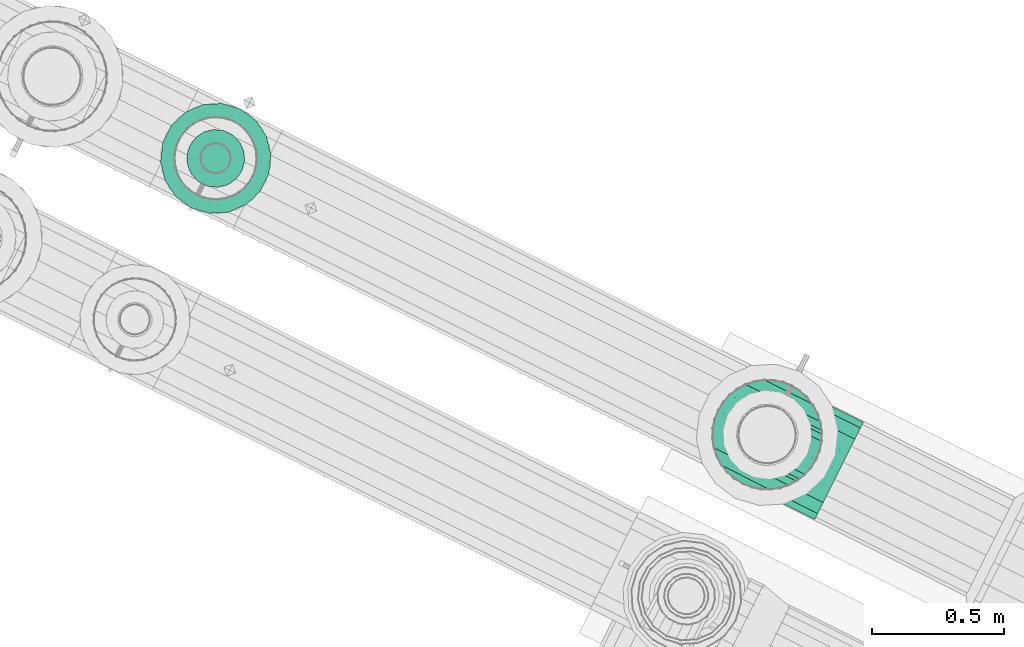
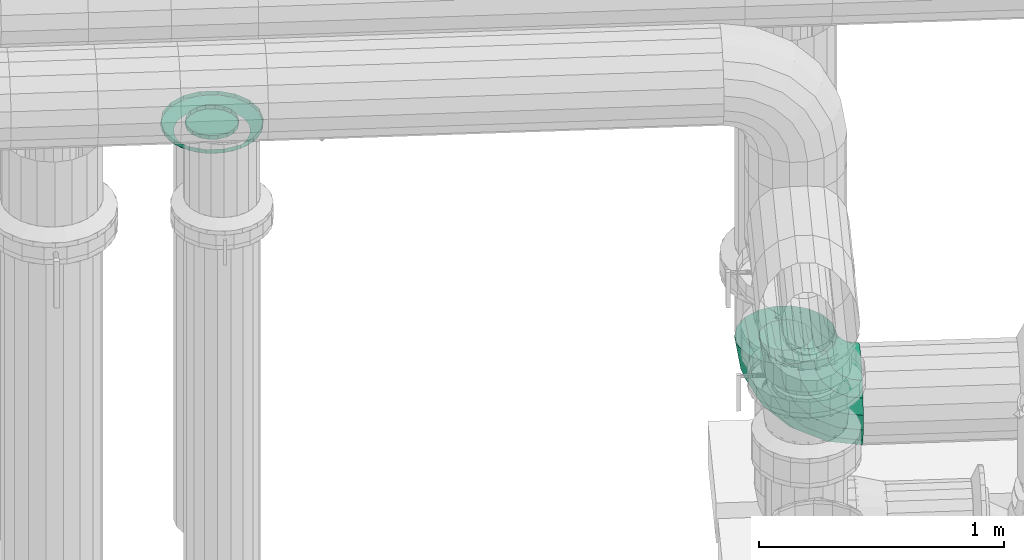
# One storey, part 127 of 152: 1 flow fitting, 1 flow segment.
"""IFC2X3 building model written with IfcOpenShell, lengths in metres."""

from ifc_helpers import new_model, si_unit, derived_unit, direction, frame, origin, place, context, subcontext, project, spatial, face_set, surface_model, source, transform, mapped, material, type_object, type_shapes, element, save


model = new_model("IFC2X3")

# Units and contexts
model_context = context("Model", 3, precision=5.2338327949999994e-05, world=origin(), true_north=direction((0.0, 1.0)))
body_context = subcontext(model_context, "Body", "Model", "MODEL_VIEW")
ifc_project = project(units=[si_unit("LENGTHUNIT", "METRE"), si_unit("AREAUNIT", "SQUARE_METRE"), si_unit("VOLUMEUNIT", "CUBIC_METRE"), si_unit("MASSUNIT", "GRAM", prefix="KILO"), si_unit("PLANEANGLEUNIT", "RADIAN"), derived_unit("THERMALTRANSMITTANCEUNIT", [(si_unit("MASSUNIT", "GRAM", prefix="KILO"), 1), (si_unit("THERMODYNAMICTEMPERATUREUNIT", "KELVIN"), -1), (si_unit("TIMEUNIT", "SECOND"), -3)])], contexts=[model_context])

# Site, building, storey
site_placement = place(None, frame((0.0, 0.0, 0.0), z_axis=(0.0, 0.0, 1.0), x_axis=(0.8939966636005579, -0.4480736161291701, 0.0)))
site = spatial("IfcSite", under=ifc_project, at=site_placement, Name="Default", CompositionType="ELEMENT")
building_placement = place(site_placement, origin())
building = spatial("IfcBuilding", under=site, at=building_placement, CompositionType="ELEMENT")
storey_placement = place(building_placement, frame((0.0, 0.0, 2.7499999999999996)))
storey = spatial("IfcBuildingStorey", under=building, at=storey_placement, Name="1. Obergeschoss", CompositionType="ELEMENT", Elevation=2.7499999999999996)

# Flow segment
ifc_material = material(Name="IfcSurfaceStyle #1741")
distribution_element_type_1 = type_object("IfcDistributionElementType", Name="Rohrbogen:Rohrbogen", material=ifc_material)
shared_shape_1 = source(origin(), body_context, "Body", "SurfaceModel", [
    surface_model("IfcFaceBasedSurfaceModel", [(9.516220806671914, 8.012208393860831, 3.764870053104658), (9.52282748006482, 8.04967670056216, 3.764870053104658), (9.542793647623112, 8.04967670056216, 3.6388086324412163), (9.536510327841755, 8.012208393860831, 3.636767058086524), (9.60073772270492, 8.04967670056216, 3.5250869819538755), (9.595392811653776, 8.012208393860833, 3.5212036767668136), (9.690987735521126, 8.04967670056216, 3.434836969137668), (9.687104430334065, 8.012208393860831, 3.429492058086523), (9.80470938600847, 8.049676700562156, 3.3768928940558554), (9.802667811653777, 8.012208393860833, 3.3706095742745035), (9.930770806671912, 8.04967670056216, 3.3569267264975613), (9.930770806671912, 8.012208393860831, 3.3503200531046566), (9.54185063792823, 8.082625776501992, 3.7648700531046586), (9.560885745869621, 8.082625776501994, 3.6446871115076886), (9.6161277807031, 8.082625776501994, 3.5362685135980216), (9.702169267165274, 8.082625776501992, 3.4502270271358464), (9.810587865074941, 8.082625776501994, 3.39498499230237), (9.930770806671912, 8.082625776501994, 3.3759498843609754), (9.570995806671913, 8.107081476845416, 3.764870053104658), (9.588604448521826, 8.10708147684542, 3.6536934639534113), (9.639706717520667, 8.10708147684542, 3.5533996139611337), (9.719300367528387, 8.107081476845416, 3.4738059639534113), (9.819594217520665, 8.107081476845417, 3.4227036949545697), (9.930770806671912, 8.10708147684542, 3.4050950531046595), (9.606747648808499, 8.12009408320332, 3.764870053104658), (9.62260647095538, 8.12009408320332, 3.6647413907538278), (9.668630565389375, 8.12009408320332, 3.574414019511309), (9.740314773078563, 8.12009408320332, 3.5027298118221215), (9.830642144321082, 8.120094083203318, 3.456705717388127), (9.930770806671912, 8.12009408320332, 3.4408468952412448), (9.644793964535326, 8.12009408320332, 3.764870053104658), (9.658790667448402, 8.12009408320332, 3.676498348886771), (9.699410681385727, 8.12009408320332, 3.5967770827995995), (9.762677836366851, 8.120094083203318, 3.5335099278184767), (9.842399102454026, 8.12009408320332, 3.4928899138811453), (9.930770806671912, 8.120094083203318, 3.478893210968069), (9.680545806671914, 8.107081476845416, 3.764870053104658), (9.692792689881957, 8.107081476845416, 3.687546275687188), (9.728334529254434, 8.107081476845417, 3.617791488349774), (9.783692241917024, 8.107081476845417, 3.562433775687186), (9.85344702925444, 8.107081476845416, 3.526891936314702), (9.930770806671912, 8.107081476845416, 3.514645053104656), (9.7096909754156, 8.082625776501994, 3.764870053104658), (9.72051139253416, 8.082625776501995, 3.6965526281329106), (9.751913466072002, 8.082625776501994, 3.634922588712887), (9.800823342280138, 8.082625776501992, 3.5860127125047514), (9.862453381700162, 8.082625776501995, 3.554610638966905), (9.930770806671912, 8.082625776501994, 3.543790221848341), (9.728714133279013, 8.049676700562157, 3.764870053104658), (9.73860349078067, 8.049676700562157, 3.702431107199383), (9.767303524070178, 8.04967670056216, 3.646104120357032), (9.812004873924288, 8.04967670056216, 3.60140277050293), (9.868331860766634, 8.04967670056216, 3.5727027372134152), (9.930770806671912, 8.049676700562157, 3.5628133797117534), (9.735320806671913, 8.012208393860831, 3.764870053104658), (9.744886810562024, 8.012208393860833, 3.7044726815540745), (9.772648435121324, 8.012208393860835, 3.6499874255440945), (9.815888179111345, 8.012208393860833, 3.6067476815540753), (9.870373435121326, 8.012208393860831, 3.578986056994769), (9.930770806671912, 8.012208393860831, 3.5694200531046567), (9.728714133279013, 7.974740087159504, 3.764870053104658), (9.73860349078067, 7.974740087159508, 3.702431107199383), (9.767303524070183, 7.974740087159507, 3.6461041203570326), (9.812004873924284, 7.974740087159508, 3.601402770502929), (9.868331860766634, 7.974740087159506, 3.5727027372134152), (9.930770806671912, 7.974740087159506, 3.5628133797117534), (9.7096909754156, 7.94179101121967, 3.7648700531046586), (9.72051139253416, 7.9417910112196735, 3.69655262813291), (9.751913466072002, 7.941791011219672, 3.634922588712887), (9.800823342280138, 7.941791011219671, 3.5860127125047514), (9.862453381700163, 7.9417910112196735, 3.5546106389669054), (9.930770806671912, 7.941791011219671, 3.5437902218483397), (9.680545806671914, 7.917335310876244, 3.764870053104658), (9.692792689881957, 7.917335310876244, 3.6875462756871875), (9.72833452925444, 7.917335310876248, 3.617791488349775), (9.783692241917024, 7.917335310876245, 3.5624337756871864), (9.85344702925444, 7.917335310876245, 3.5268919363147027), (9.930770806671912, 7.917335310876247, 3.514645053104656), (9.644793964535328, 7.904322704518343, 3.7648700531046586), (9.658790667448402, 7.904322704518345, 3.676498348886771), (9.699410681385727, 7.904322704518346, 3.5967770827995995), (9.762677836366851, 7.904322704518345, 3.5335099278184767), (9.842399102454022, 7.904322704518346, 3.4928899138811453), (9.930770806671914, 7.904322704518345, 3.478893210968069), (9.606747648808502, 7.904322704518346, 3.7648700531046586), (9.62260647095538, 7.904322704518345, 3.6647413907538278), (9.668630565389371, 7.904322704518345, 3.574414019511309), (9.740314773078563, 7.904322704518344, 3.5027298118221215), (9.830642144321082, 7.904322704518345, 3.456705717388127), (9.930770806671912, 7.904322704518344, 3.440846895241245), (9.570995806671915, 7.917335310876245, 3.7648700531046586), (9.588604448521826, 7.917335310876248, 3.653693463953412), (9.639706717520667, 7.917335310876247, 3.5533996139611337), (9.71930036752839, 7.917335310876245, 3.473805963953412), (9.819594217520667, 7.917335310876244, 3.422703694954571), (9.930770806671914, 7.917335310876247, 3.4050950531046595), (9.541850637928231, 7.941791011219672, 3.764870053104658), (9.560885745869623, 7.941791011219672, 3.644687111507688), (9.616127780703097, 7.941791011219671, 3.5362685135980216), (9.702169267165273, 7.941791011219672, 3.4502270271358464), (9.810587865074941, 7.9417910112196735, 3.394984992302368), (9.930770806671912, 7.941791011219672, 3.375949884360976), (9.52282748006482, 7.974740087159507, 3.764870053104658), (9.542793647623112, 7.974740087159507, 3.6388086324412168), (9.60073772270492, 7.974740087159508, 3.525086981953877), (9.690987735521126, 7.974740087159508, 3.4348369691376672), (9.80470938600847, 7.974740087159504, 3.3768928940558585), (9.930770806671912, 7.974740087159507, 3.3569267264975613), (9.416220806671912, 8.012208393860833, 3.764870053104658), (9.428858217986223, 8.083878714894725, 3.764870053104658), (9.45342356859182, 8.083878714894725, 3.609770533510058), (9.44140467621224, 8.012208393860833, 3.6058653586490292), (9.524714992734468, 8.083878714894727, 3.469853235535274), (9.51449111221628, 8.012208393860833, 3.4624251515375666), (9.635753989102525, 8.083878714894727, 3.358814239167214), (9.628325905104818, 8.012208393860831, 3.3485903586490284), (9.77567128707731, 8.083878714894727, 3.287522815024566), (9.77176611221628, 8.012208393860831, 3.275503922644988), (9.93077080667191, 8.083878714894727, 3.2629574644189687), (9.930770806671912, 8.012208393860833, 3.2503200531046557), (9.46524619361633, 8.146904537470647, 3.7648700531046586), (9.48803058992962, 8.146904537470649, 3.621015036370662), (9.554153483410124, 8.146904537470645, 3.4912415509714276), (9.65714230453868, 8.146904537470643, 3.3882527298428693), (9.786915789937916, 8.146904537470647, 3.322129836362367), (9.930770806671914, 8.146904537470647, 3.2993454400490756), (9.520995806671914, 8.193684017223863, 3.764870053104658), (9.541051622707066, 8.193684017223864, 3.6382426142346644), (9.599255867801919, 8.193684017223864, 3.5240103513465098), (9.689911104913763, 8.19368401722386, 3.433355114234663), (9.80414336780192, 8.193684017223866, 3.3751508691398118), (9.930770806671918, 8.193684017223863, 3.3550950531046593), (9.589382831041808, 8.218574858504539, 3.764870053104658), (9.606091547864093, 8.21857485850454, 3.659375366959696), (9.654582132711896, 8.218574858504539, 3.5642072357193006), (9.730107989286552, 8.218574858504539, 3.4886813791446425), (9.825276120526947, 8.21857485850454, 3.440190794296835), (9.930770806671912, 8.218574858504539, 3.423482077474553), (9.662158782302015, 8.218574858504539, 3.764870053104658), (9.675305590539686, 8.218574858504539, 3.681864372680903), (9.713459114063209, 8.218574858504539, 3.6069838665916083), (9.772884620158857, 8.21857485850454, 3.547558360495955), (9.847765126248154, 8.21857485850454, 3.509404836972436), (9.930770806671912, 8.21857485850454, 3.496258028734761), (9.73054580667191, 8.19368401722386, 3.764870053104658), (9.740345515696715, 8.193684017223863, 3.702997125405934), (9.768785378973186, 8.193684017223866, 3.6471807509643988), (9.81308150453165, 8.193684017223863, 3.602884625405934), (9.868897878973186, 8.193684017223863, 3.574444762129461), (9.930770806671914, 8.193684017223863, 3.564645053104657), (9.786295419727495, 8.146904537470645, 3.764870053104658), (9.793366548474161, 8.146904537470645, 3.720224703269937), (9.813887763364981, 8.146904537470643, 3.679949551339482), (9.845850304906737, 8.146904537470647, 3.647987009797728), (9.886125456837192, 8.146904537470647, 3.6274657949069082), (9.930770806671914, 8.146904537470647, 3.6203946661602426), (9.8226833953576, 8.083878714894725, 3.764870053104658), (9.82797356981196, 8.083878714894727, 3.7314692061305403), (9.843326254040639, 8.083878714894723, 3.701337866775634), (9.867238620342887, 8.083878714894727, 3.677425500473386), (9.897369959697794, 8.083878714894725, 3.662072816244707), (9.930770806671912, 8.083878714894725, 3.656782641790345), (9.835320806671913, 8.012208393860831, 3.764870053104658), (9.83999246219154, 8.012208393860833, 3.735374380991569), (9.853550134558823, 8.012208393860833, 3.7087659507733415), (9.874666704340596, 8.012208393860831, 3.687649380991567), (9.901275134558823, 8.012208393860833, 3.674091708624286), (9.930770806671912, 8.012208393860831, 3.6694200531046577), (9.822683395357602, 7.9405380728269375, 3.764870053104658), (9.827973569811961, 7.9405380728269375, 3.7314692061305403), (9.843326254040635, 7.9405380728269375, 3.7013378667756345), (9.86723862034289, 7.940538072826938, 3.6774255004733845), (9.897369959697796, 7.940538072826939, 3.6620728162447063), (9.930770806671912, 7.940538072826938, 3.656782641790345), (9.786295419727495, 7.877512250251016, 3.764870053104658), (9.793366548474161, 7.877512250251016, 3.720224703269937), (9.813887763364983, 7.877512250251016, 3.679949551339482), (9.845850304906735, 7.877512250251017, 3.647987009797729), (9.886125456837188, 7.877512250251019, 3.6274657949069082), (9.930770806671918, 7.8775122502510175, 3.620394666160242), (9.73054580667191, 7.830732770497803, 3.764870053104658), (9.740345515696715, 7.830732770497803, 3.702997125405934), (9.768785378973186, 7.830732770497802, 3.647180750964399), (9.81308150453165, 7.830732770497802, 3.602884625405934), (9.868897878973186, 7.830732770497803, 3.57444476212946), (9.930770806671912, 7.830732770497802, 3.564645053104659), (9.662158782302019, 7.805841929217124, 3.764870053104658), (9.67530559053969, 7.805841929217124, 3.681864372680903), (9.713459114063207, 7.805841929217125, 3.6069838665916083), (9.772884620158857, 7.805841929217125, 3.547558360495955), (9.847765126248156, 7.805841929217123, 3.509404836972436), (9.930770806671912, 7.805841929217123, 3.4962580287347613), (9.589382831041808, 7.805841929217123, 3.764870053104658), (9.606091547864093, 7.805841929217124, 3.659375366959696), (9.654582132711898, 7.805841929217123, 3.5642072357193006), (9.730107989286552, 7.805841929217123, 3.488681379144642), (9.825276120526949, 7.805841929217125, 3.4401907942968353), (9.930770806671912, 7.805841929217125, 3.4234820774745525), (9.520995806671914, 7.830732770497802, 3.764870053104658), (9.541051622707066, 7.830732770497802, 3.6382426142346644), (9.599255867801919, 7.830732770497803, 3.52401035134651), (9.689911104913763, 7.8307327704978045, 3.433355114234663), (9.80414336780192, 7.8307327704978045, 3.375150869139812), (9.930770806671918, 7.830732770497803, 3.355095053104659), (9.465246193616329, 7.877512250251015, 3.7648700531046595), (9.48803058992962, 7.877512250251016, 3.621015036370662), (9.554153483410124, 7.8775122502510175, 3.4912415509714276), (9.65714230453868, 7.877512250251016, 3.38825272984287), (9.786915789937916, 7.877512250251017, 3.322129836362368), (9.930770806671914, 7.877512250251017, 3.299345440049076), (9.428858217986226, 7.9405380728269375, 3.764870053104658), (9.453423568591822, 7.9405380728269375, 3.609770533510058), (9.524714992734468, 7.940538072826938, 3.469853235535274), (9.635753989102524, 7.9405380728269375, 3.358814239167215), (9.77567128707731, 7.9405380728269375, 3.287522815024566), (9.930770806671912, 7.940538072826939, 3.262957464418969)], [face_set([[[0, 1, 2, 3]], [[3, 2, 4, 5]], [[5, 4, 6, 7]], [[7, 6, 8, 9]], [[9, 8, 10, 11]], [[1, 12, 13, 2]], [[2, 13, 14, 4]], [[4, 14, 15, 6]], [[6, 15, 16, 8]], [[8, 16, 17, 10]], [[12, 18, 19, 13]], [[13, 19, 20, 14]], [[14, 20, 21, 15]], [[15, 21, 22, 16]], [[16, 22, 23, 17]], [[18, 24, 25, 19]], [[19, 25, 26, 20]], [[20, 26, 27, 21]], [[21, 27, 28, 22]], [[22, 28, 29, 23]], [[24, 30, 31, 25]], [[25, 31, 32, 26]], [[26, 32, 33, 27]], [[27, 33, 34, 28]], [[28, 34, 35, 29]], [[30, 36, 37, 31]], [[31, 37, 38, 32]], [[32, 38, 39, 33]], [[33, 39, 40, 34]], [[34, 40, 41, 35]], [[36, 42, 43, 37]], [[37, 43, 44, 38]], [[38, 44, 45, 39]], [[39, 45, 46, 40]], [[40, 46, 47, 41]], [[42, 48, 49, 43]], [[43, 49, 50, 44]], [[44, 50, 51, 45]], [[45, 51, 52, 46]], [[46, 52, 53, 47]], [[48, 54, 55, 49]], [[49, 55, 56, 50]], [[50, 56, 57, 51]], [[51, 57, 58, 52]], [[52, 58, 59, 53]], [[54, 60, 61, 55]], [[55, 61, 62, 56]], [[56, 62, 63, 57]], [[57, 63, 64, 58]], [[58, 64, 65, 59]], [[60, 66, 67, 61]], [[61, 67, 68, 62]], [[62, 68, 69, 63]], [[63, 69, 70, 64]], [[64, 70, 71, 65]], [[66, 72, 73, 67]], [[67, 73, 74, 68]], [[68, 74, 75, 69]], [[69, 75, 76, 70]], [[70, 76, 77, 71]], [[72, 78, 79, 73]], [[73, 79, 80, 74]], [[74, 80, 81, 75]], [[75, 81, 82, 76]], [[76, 82, 83, 77]], [[78, 84, 85, 79]], [[79, 85, 86, 80]], [[80, 86, 87, 81]], [[81, 87, 88, 82]], [[82, 88, 89, 83]], [[84, 90, 91, 85]], [[85, 91, 92, 86]], [[86, 92, 93, 87]], [[87, 93, 94, 88]], [[88, 94, 95, 89]], [[90, 96, 97, 91]], [[91, 97, 98, 92]], [[92, 98, 99, 93]], [[93, 99, 100, 94]], [[94, 100, 101, 95]], [[96, 102, 103, 97]], [[97, 103, 104, 98]], [[98, 104, 105, 99]], [[99, 105, 106, 100]], [[100, 106, 107, 101]], [[102, 0, 3, 103]], [[103, 3, 5, 104]], [[104, 5, 7, 105]], [[105, 7, 9, 106]], [[106, 9, 11, 107]], [[108, 109, 110, 111]], [[111, 110, 112, 113]], [[113, 112, 114, 115]], [[115, 114, 116, 117]], [[117, 116, 118, 119]], [[109, 120, 121, 110]], [[110, 121, 122, 112]], [[112, 122, 123, 114]], [[114, 123, 124, 116]], [[116, 124, 125, 118]], [[120, 126, 127, 121]], [[121, 127, 128, 122]], [[122, 128, 129, 123]], [[123, 129, 130, 124]], [[124, 130, 131, 125]], [[126, 132, 133, 127]], [[127, 133, 134, 128]], [[128, 134, 135, 129]], [[129, 135, 136, 130]], [[130, 136, 137, 131]], [[132, 138, 139, 133]], [[133, 139, 140, 134]], [[134, 140, 141, 135]], [[135, 141, 142, 136]], [[136, 142, 143, 137]], [[138, 144, 145, 139]], [[139, 145, 146, 140]], [[140, 146, 147, 141]], [[141, 147, 148, 142]], [[142, 148, 149, 143]], [[144, 150, 151, 145]], [[145, 151, 152, 146]], [[146, 152, 153, 147]], [[147, 153, 154, 148]], [[148, 154, 155, 149]], [[150, 156, 157, 151]], [[151, 157, 158, 152]], [[152, 158, 159, 153]], [[153, 159, 160, 154]], [[154, 160, 161, 155]], [[156, 162, 163, 157]], [[157, 163, 164, 158]], [[158, 164, 165, 159]], [[159, 165, 166, 160]], [[160, 166, 167, 161]], [[162, 168, 169, 163]], [[163, 169, 170, 164]], [[164, 170, 171, 165]], [[165, 171, 172, 166]], [[166, 172, 173, 167]], [[168, 174, 175, 169]], [[169, 175, 176, 170]], [[170, 176, 177, 171]], [[171, 177, 178, 172]], [[172, 178, 179, 173]], [[174, 180, 181, 175]], [[175, 181, 182, 176]], [[176, 182, 183, 177]], [[177, 183, 184, 178]], [[178, 184, 185, 179]], [[180, 186, 187, 181]], [[181, 187, 188, 182]], [[182, 188, 189, 183]], [[183, 189, 190, 184]], [[184, 190, 191, 185]], [[186, 192, 193, 187]], [[187, 193, 194, 188]], [[188, 194, 195, 189]], [[189, 195, 196, 190]], [[190, 196, 197, 191]], [[192, 198, 199, 193]], [[193, 199, 200, 194]], [[194, 200, 201, 195]], [[195, 201, 202, 196]], [[196, 202, 203, 197]], [[198, 204, 205, 199]], [[199, 205, 206, 200]], [[200, 206, 207, 201]], [[201, 207, 208, 202]], [[202, 208, 209, 203]], [[204, 210, 211, 205]], [[205, 211, 212, 206]], [[206, 212, 213, 207]], [[207, 213, 214, 208]], [[208, 214, 215, 209]], [[210, 108, 111, 211]], [[211, 111, 113, 212]], [[212, 113, 115, 213]], [[213, 115, 117, 214]], [[214, 117, 119, 215]]])]),
])
type_shapes(distribution_element_type_1, [shared_shape_1])
flow_segment_placement = place(storey_placement, frame((0.0, 0.0, -2.7499999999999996)))
element("IfcFlowSegment", 1, at=flow_segment_placement, inside=storey, type_object=distribution_element_type_1, material=ifc_material, Name="Rohrbogen", ObjectType="Rohrbogen", context=body_context, shape_type="MappedRepresentation", body=[
    mapped(shared_shape_1, transform((0.0, 0.0, 0.0), scale=1.0)),
])

# Flow fitting
distribution_element_type_2 = type_object("IfcDistributionElementType", Name="Flansch 247524:Flansch 247524", material=ifc_material)
shared_shape_2 = source(origin(), body_context, "Body", "SurfaceModel", [
    surface_model("IfcFaceBasedSurfaceModel", [(7.392618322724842, 8.012208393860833, 4.930622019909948), (7.385984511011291, 7.9745861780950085, 4.930622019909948), (7.385984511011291, 7.9745861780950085, 4.9106220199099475), (7.392618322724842, 8.012208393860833, 4.910622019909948), (7.366883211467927, 7.941501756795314, 4.930622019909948), (7.366883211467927, 7.941501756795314, 4.9106220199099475), (7.337618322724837, 7.916945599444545, 4.930622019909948), (7.337618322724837, 7.916945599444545, 4.9106220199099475), (7.301719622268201, 7.903879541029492, 4.930622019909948), (7.301719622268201, 7.903879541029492, 4.9106220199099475), (7.2635170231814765, 7.903879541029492, 4.930622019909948), (7.2635170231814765, 7.903879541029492, 4.9106220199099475), (7.2276183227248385, 7.916945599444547, 4.930622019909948), (7.2276183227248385, 7.916945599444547, 4.9106220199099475), (7.198353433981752, 7.941501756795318, 4.930622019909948), (7.198353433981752, 7.941501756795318, 4.9106220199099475), (7.17925213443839, 7.974586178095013, 4.930622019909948), (7.17925213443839, 7.974586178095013, 4.9106220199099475), (7.172618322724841, 8.012208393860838, 4.930622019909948), (7.172618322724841, 8.012208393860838, 4.9106220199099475), (7.179252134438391, 8.049830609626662, 4.930622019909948), (7.179252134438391, 8.049830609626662, 4.9106220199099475), (7.198353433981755, 8.082915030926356, 4.930622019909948), (7.198353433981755, 8.082915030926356, 4.9106220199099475), (7.227618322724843, 8.107471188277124, 4.930622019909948), (7.227618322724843, 8.107471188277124, 4.9106220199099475), (7.263517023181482, 8.120537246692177, 4.930622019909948), (7.263517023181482, 8.120537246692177, 4.9106220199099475), (7.301719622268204, 8.120537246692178, 4.930622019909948), (7.301719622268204, 8.120537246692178, 4.9106220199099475), (7.337618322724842, 8.107471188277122, 4.930622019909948), (7.337618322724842, 8.107471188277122, 4.9106220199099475), (7.36688321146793, 8.082915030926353, 4.930622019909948), (7.36688321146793, 8.082915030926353, 4.9106220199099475), (7.385984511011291, 8.049830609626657, 4.930622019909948), (7.385984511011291, 8.049830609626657, 4.9106220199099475), (7.282618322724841, 8.012208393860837, 4.9106220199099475), (7.282618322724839, 7.946708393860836, 4.9106220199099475), (7.260216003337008, 7.950658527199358, 4.9106220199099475), (7.2630718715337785, 7.958504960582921, 4.878622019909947), (7.28261832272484, 7.955058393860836, 4.878622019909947), (7.240515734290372, 7.962032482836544, 4.9106220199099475), (7.245883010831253, 7.968428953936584, 4.878622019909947), (7.2258936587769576, 7.979458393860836, 4.9106220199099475), (7.233124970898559, 7.983633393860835, 4.878622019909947), (7.218113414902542, 8.000834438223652, 4.9106220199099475), (7.2263365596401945, 8.002284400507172, 4.878622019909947), (7.2181134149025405, 8.023582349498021, 4.9106220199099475), (7.2263365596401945, 8.022132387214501, 4.878622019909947), (7.225893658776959, 8.044958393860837, 4.9106220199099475), (7.233124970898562, 8.040783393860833, 4.878622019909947), (7.240515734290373, 8.06238430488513, 4.9106220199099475), (7.245883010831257, 8.055987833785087, 4.878622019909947), (7.260216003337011, 8.07375826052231, 4.9106220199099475), (7.26307187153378, 8.06591182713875, 4.878622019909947), (7.282618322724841, 8.077708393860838, 4.9106220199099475), (7.2826183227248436, 8.069358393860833, 4.878622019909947), (7.305020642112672, 8.073758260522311, 4.9106220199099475), (7.302164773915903, 8.06591182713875, 4.878622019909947), (7.324720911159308, 8.062384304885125, 4.9106220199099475), (7.319353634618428, 8.055987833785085, 4.878622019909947), (7.3393429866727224, 8.044958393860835, 4.9106220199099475), (7.332111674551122, 8.040783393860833, 4.878622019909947), (7.3471232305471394, 8.023582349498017, 4.9106220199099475), (7.338900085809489, 8.022132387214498, 4.878622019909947), (7.3471232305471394, 8.00083443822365, 4.9106220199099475), (7.338900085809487, 8.00228440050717, 4.878622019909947), (7.33934298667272, 7.979458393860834, 4.9106220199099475), (7.332111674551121, 7.983633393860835, 4.878622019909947), (7.324720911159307, 7.962032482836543, 4.9106220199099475), (7.319353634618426, 7.968428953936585, 4.878622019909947), (7.30502064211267, 7.950658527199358, 4.9106220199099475), (7.302164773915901, 7.9585049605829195, 4.878622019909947), (7.492618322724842, 8.012208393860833, 4.930622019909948), (7.47995377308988, 7.940384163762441, 4.930622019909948), (7.47995377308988, 7.940384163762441, 4.9106220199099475), (7.492618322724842, 8.012208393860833, 4.910622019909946), (7.443487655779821, 7.877222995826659, 4.930622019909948), (7.443487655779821, 7.877222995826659, 4.9106220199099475), (7.387618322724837, 7.830343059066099, 4.930622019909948), (7.387618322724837, 7.830343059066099, 4.9106220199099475), (7.3190844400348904, 7.805398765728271, 4.930622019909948), (7.3190844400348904, 7.805398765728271, 4.9106220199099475), (7.2461522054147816, 7.805398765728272, 4.930622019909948), (7.2461522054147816, 7.805398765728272, 4.9106220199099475), (7.177618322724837, 7.830343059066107, 4.930622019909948), (7.177618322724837, 7.830343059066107, 4.9106220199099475), (7.121748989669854, 7.877222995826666, 4.930622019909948), (7.121748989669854, 7.877222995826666, 4.9106220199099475), (7.085282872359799, 7.940384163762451, 4.930622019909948), (7.085282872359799, 7.940384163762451, 4.9106220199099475), (7.07261832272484, 8.01220839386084, 4.930622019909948), (7.07261832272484, 8.01220839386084, 4.9106220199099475), (7.085282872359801, 8.084032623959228, 4.930622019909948), (7.085282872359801, 8.084032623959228, 4.9106220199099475), (7.121748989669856, 8.147193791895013, 4.930622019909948), (7.121748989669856, 8.147193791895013, 4.9106220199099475), (7.177618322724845, 8.194073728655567, 4.930622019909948), (7.177618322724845, 8.194073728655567, 4.9106220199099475), (7.2461522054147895, 8.219018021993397, 4.930622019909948), (7.2461522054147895, 8.219018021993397, 4.9106220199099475), (7.319084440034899, 8.219018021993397, 4.930622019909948), (7.319084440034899, 8.219018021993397, 4.9106220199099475), (7.387618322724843, 8.194073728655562, 4.930622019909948), (7.387618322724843, 8.194073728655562, 4.9106220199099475), (7.443487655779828, 8.147193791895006, 4.930622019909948), (7.443487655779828, 8.147193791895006, 4.9106220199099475), (7.479953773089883, 8.08403262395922, 4.930622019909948), (7.479953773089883, 8.08403262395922, 4.9106220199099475), (7.282618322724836, 7.802208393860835, 4.910622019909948), (7.210794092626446, 7.8148729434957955, 4.910622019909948), (7.22886985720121, 7.86453569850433, 4.878622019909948), (7.282618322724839, 7.855058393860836, 4.878622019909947), (7.147632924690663, 7.851339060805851, 4.9106220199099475), (7.181604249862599, 7.891824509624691, 4.878622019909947), (7.100752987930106, 7.907208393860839, 4.910622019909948), (7.146522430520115, 7.9336333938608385, 4.878622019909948), (7.075808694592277, 7.975742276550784, 4.9106220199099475), (7.127855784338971, 7.9849195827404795, 4.878622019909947), (7.075808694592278, 8.048674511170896, 4.9106220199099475), (7.127855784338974, 8.039497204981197, 4.878622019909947), (7.100752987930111, 8.117208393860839, 4.9106220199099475), (7.146522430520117, 8.09078339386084, 4.878622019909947), (7.1476329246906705, 8.173077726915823, 4.9106220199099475), (7.1816042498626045, 8.132592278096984, 4.878622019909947), (7.210794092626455, 8.209543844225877, 4.910622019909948), (7.228869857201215, 8.159881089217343, 4.878622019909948), (7.282618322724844, 8.222208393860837, 4.9106220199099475), (7.282618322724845, 8.169358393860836, 4.878622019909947), (7.354442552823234, 8.209543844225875, 4.9106220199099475), (7.3363667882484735, 8.159881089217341, 4.878622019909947), (7.4176037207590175, 8.173077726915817, 4.9106220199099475), (7.383632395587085, 8.13259227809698, 4.878622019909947), (7.464483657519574, 8.11720839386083, 4.910622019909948), (7.418714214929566, 8.090783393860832, 4.878622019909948), (7.489427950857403, 8.048674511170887, 4.9106220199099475), (7.43738086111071, 8.03949720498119, 4.878622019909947), (7.489427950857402, 7.9757422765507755, 4.9106220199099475), (7.43738086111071, 7.984919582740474, 4.878622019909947), (7.464483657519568, 7.907208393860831, 4.9106220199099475), (7.418714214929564, 7.933633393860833, 4.878622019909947), (7.4176037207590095, 7.851339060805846, 4.910622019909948), (7.38363239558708, 7.891824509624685, 4.878622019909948), (7.354442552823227, 7.814872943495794, 4.9106220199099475), (7.336366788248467, 7.864535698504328, 4.878622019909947)], [face_set([[[0, 1, 2, 3]], [[1, 4, 5, 2]], [[4, 6, 7, 5]], [[6, 8, 9, 7]], [[8, 10, 11, 9]], [[10, 12, 13, 11]], [[12, 14, 15, 13]], [[14, 16, 17, 15]], [[16, 18, 19, 17]], [[18, 20, 21, 19]], [[20, 22, 23, 21]], [[22, 24, 25, 23]], [[24, 26, 27, 25]], [[26, 28, 29, 27]], [[28, 30, 31, 29]], [[30, 32, 33, 31]], [[32, 34, 35, 33]], [[34, 0, 3, 35]], [[36, 35, 3]], [[36, 33, 35]], [[36, 31, 33]], [[36, 29, 31]], [[36, 27, 29]], [[36, 25, 27]], [[36, 23, 25]], [[36, 21, 23]], [[36, 19, 21]], [[36, 17, 19]], [[36, 15, 17]], [[36, 13, 15]], [[36, 11, 13]], [[36, 9, 11]], [[36, 7, 9]], [[36, 5, 7]], [[36, 2, 5]], [[36, 3, 2]], [[37, 38, 39, 40]], [[38, 41, 42, 39]], [[41, 43, 44, 42]], [[43, 45, 46, 44]], [[45, 47, 48, 46]], [[47, 49, 50, 48]], [[49, 51, 52, 50]], [[51, 53, 54, 52]], [[53, 55, 56, 54]], [[55, 57, 58, 56]], [[57, 59, 60, 58]], [[59, 61, 62, 60]], [[61, 63, 64, 62]], [[63, 65, 66, 64]], [[65, 67, 68, 66]], [[67, 69, 70, 68]], [[69, 71, 72, 70]], [[71, 37, 40, 72]], [[73, 74, 75, 76]], [[74, 77, 78, 75]], [[77, 79, 80, 78]], [[79, 81, 82, 80]], [[81, 83, 84, 82]], [[83, 85, 86, 84]], [[85, 87, 88, 86]], [[87, 89, 90, 88]], [[89, 91, 92, 90]], [[91, 93, 94, 92]], [[93, 95, 96, 94]], [[95, 97, 98, 96]], [[97, 99, 100, 98]], [[99, 101, 102, 100]], [[101, 103, 104, 102]], [[103, 105, 106, 104]], [[105, 107, 108, 106]], [[107, 73, 76, 108]], [[109, 110, 111, 112]], [[110, 113, 114, 111]], [[113, 115, 116, 114]], [[115, 117, 118, 116]], [[117, 119, 120, 118]], [[119, 121, 122, 120]], [[121, 123, 124, 122]], [[123, 125, 126, 124]], [[125, 127, 128, 126]], [[127, 129, 130, 128]], [[129, 131, 132, 130]], [[131, 133, 134, 132]], [[133, 135, 136, 134]], [[135, 137, 138, 136]], [[137, 139, 140, 138]], [[139, 141, 142, 140]], [[141, 143, 144, 142]], [[143, 109, 112, 144]]])]),
])
type_shapes(distribution_element_type_2, [shared_shape_2])
flow_fitting_placement = place(storey_placement, frame((0.0, 0.0, -2.7499999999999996)))
element("IfcFlowFitting", 2, at=flow_fitting_placement, inside=storey, type_object=distribution_element_type_2, material=ifc_material, Name="Flansch", ObjectType="Flansch", context=body_context, shape_type="MappedRepresentation", body=[
    mapped(shared_shape_2, transform((0.0, 0.0, 0.0), scale=1.0)),
])

save(model, "model.ifc")
